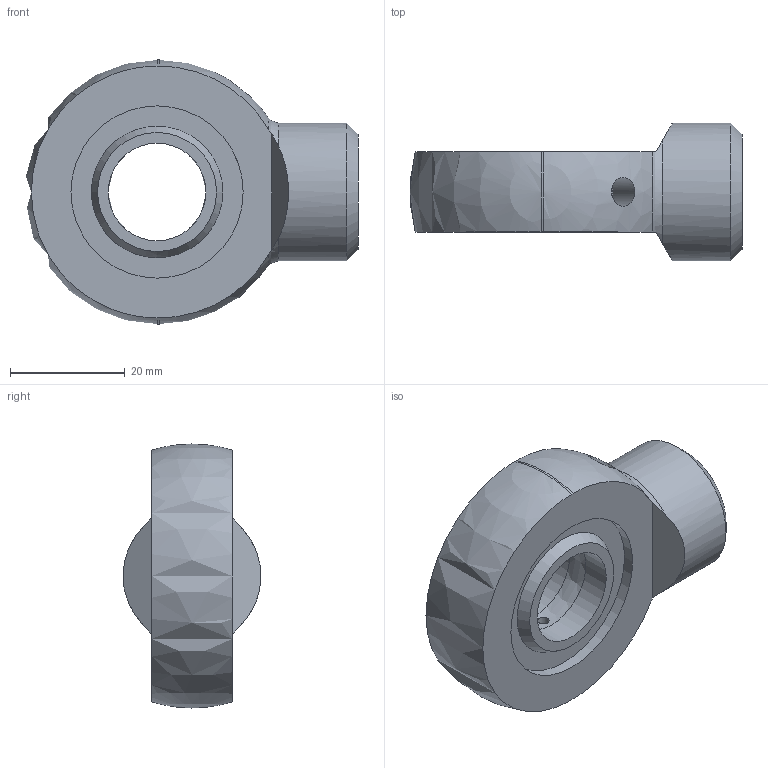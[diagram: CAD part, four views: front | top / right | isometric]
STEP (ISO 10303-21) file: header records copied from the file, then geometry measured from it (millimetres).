
FILE_DESCRIPTION( ( 'Unknown' ), '1' );
FILE_NAME( 'E:/LIBRERIA_3d/SNODI INDUSTRIALI/CSTS017C00.stp', 'Unknown', ( 'Unknown' ), ( 'Unknown' ), 'PSStep 17.0.49', 'Unknown', ' ' );
FILE_SCHEMA( ( 'AUTOMOTIVE_DESIGN { 1 0 10303 214 1 1 1 1 }' ) );
Length unit declared in the file: millimetre
Products named in the file (4): CSTSF017C0; tsc17cCORPO; Assem1; CGE0170000
Assembly tree (3 placements, depth 3):
  Assem1
    CGE0170000
    CSTSF017C0
      tsc17cCORPO
Bounding box: 57.83 x 23.99 x 46 mm (x, y, z)
Volume: 23538 mm3; surface area: 9290 mm2
Topology: 2 solids, 2 shells, 34 faces, 89 edges, 58 vertices
Faces by surface type: cylinder 13, plane 12, sphere 5, torus 2, bspline 1, cone 1
Full cylindrical faces by diameter (mm): 2 x2, 3 x1, 5 x1, 17 x2, 24 x1, 28 x1, 30 x3
Entity records: 1335 total; most frequent: CARTESIAN_POINT 438, DIRECTION 154, ORIENTED_EDGE 112, AXIS2_PLACEMENT_3D 74, EDGE_LOOP 64, EDGE_CURVE 56, FACE_OUTER_BOUND 48, VERTEX_POINT 46
